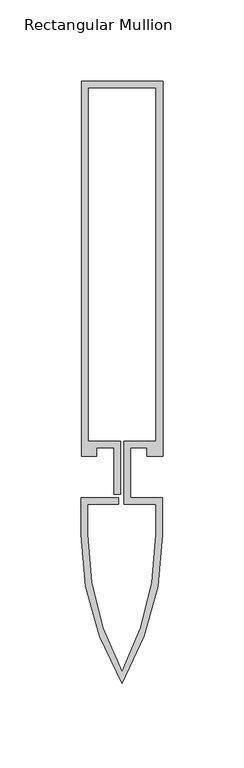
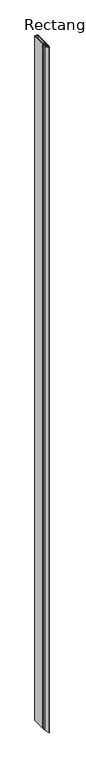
"""IFC4 building model written with IfcOpenShell, lengths in millimetres: member geometry, Rectangular Mullion : Reynaers_CW-50_Transom-Transom_230.5mm_Facecap-05."""

from ifc_helpers import new_model, si_unit, point, frame, frame_2d, origin, place, context, project, spatial, polyline, circle_curve, trimmed, segment, composite_curve, outline, extrude, source, transform, mapped, element, save


def rectangular_mullion_e9a00c45(model_context):
    return source(origin(), model_context, "Body", "SweptSolid", [
        extrude(outline(composite_curve([segment(polyline([(25.1995941, 12.7331291), (15.499, 12.7331291), (15.499, 18.1331291), (5.2995941, 18.1331291), (5.2995941, -12.7331291), (24.994845, -12.7331291), (24.994845, -35.5313894)]), True, "CONTINUOUS"), segment(trimmed(circle_curve(frame_2d((-153.8920333, -35.5313894)), 178.8868784), [point((24.994845, -35.5313894))], [point((0.0, -126.7331291))], False, "CARTESIAN"), True, "CONTINUOUS"), segment(trimmed(circle_curve(frame_2d((153.8920333, -35.5313894)), 178.8868784), [point((0.0, -126.7331291))], [point((-24.994845, -35.5313894))], False, "CARTESIAN"), True, "CONTINUOUS"), segment(polyline([(-24.994845, -35.5313894), (-24.994845, -12.7331291), (-1.9004059, -12.7331291), (-1.9004059, -16.7331291), (-20.994845, -16.7331291), (-20.994845, -35.5313894)]), True, "CONTINUOUS"), segment(trimmed(circle_curve(frame_2d((158.3679339, -35.5313894)), 179.3627789), [point((-20.994845, -35.5313894))], [point((0.0, -119.7371135))], True, "CARTESIAN"), True, "CONTINUOUS"), segment(trimmed(circle_curve(frame_2d((-158.3679339, -35.5313894)), 179.3627789), [point((0.0, -119.7371135))], [point((20.994845, -35.5313894))], True, "CARTESIAN"), True, "CONTINUOUS"), segment(polyline([(20.994845, -35.5313894), (20.994845, -16.7331291), (1.2995941, -16.7331291), (1.2995941, 22.1331291), (21.1995941, 22.1331291), (21.1995941, 239.2331291), (-20.8004059, 239.2331291), (-20.8004059, 22.1331291), (-0.9004059, 22.1331291), (-0.9004059, -10.5), (-4.9004059, -10.5), (-4.9004059, 18.1331291), (-15.499, 18.1331291), (-15.499, 12.7331291), (-24.8004059, 12.7331291), (-24.8004059, 243.2331291), (25.1995941, 243.2331291), (25.1995941, 12.7331291)]), True, "CONTINUOUS")], self_intersect=False)), frame((0.0, 0.0, -12000.0), z_axis=(0.0, 0.0, 1.0), x_axis=(1.0, 0.0, 0.0)), (0.0, 0.0, 1.0), 12000.0),
    ])


if __name__ == "__main__":
    model = new_model("IFC4")
    model_context = context("Model", 3, world=origin())
    ifc_project = project(units=[si_unit("LENGTHUNIT", "METRE", prefix="MILLI")], contexts=[model_context])
    site = spatial("IfcSite", under=ifc_project)
    building = spatial("IfcBuilding", under=site)
    placement = place(None, origin())
    rectangular_mullion_shape = rectangular_mullion_e9a00c45(model_context)
    element("IfcMember", 1, ObjectType="Rectangular Mullion : Reynaers_CW-50_Transom-Transom_230.5mm_Facecap-05", at=placement, inside=building, context=model_context, shape_type="MappedRepresentation", body=[
        mapped(rectangular_mullion_shape, transform((0.0, 0.0, 0.0), x_axis=(1.0, 0.0, 0.0), y_axis=(0.0, 1.0, 0.0), z_axis=(0.0, 0.0, 1.0))),
    ])
    save(model, "model.ifc")
